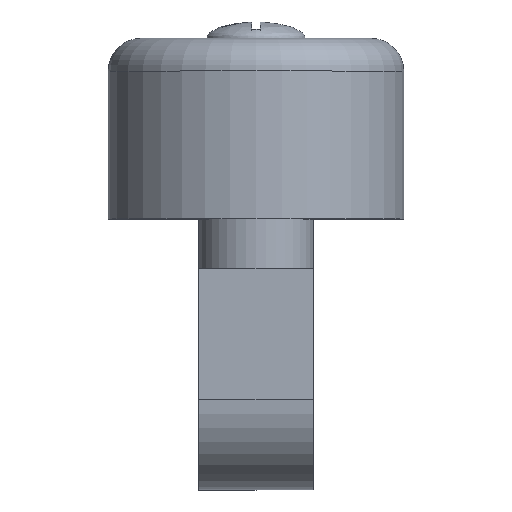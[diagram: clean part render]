
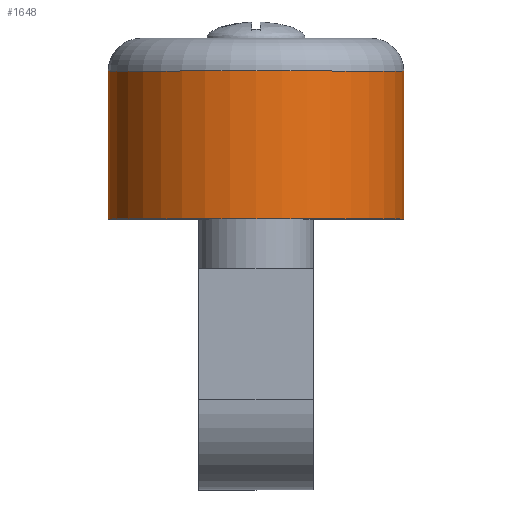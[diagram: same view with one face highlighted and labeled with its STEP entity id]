
A CAD part, top view. The second image highlights one B-rep face of the part: STEP entity #1648.
In plain terms, the highlighted cylindrical face has radius 18 mm (diameter 36 mm), a full revolution.
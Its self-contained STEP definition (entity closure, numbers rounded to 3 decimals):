
#310=LINE('',#5144,#416);
#416=VECTOR('',#2387,18.);
#480=CYLINDRICAL_SURFACE('',#1952,18.);
#644=FACE_OUTER_BOUND('',#741,.T.);
#741=EDGE_LOOP('',(#1419,#1420,#1421,#1422));
#849=CIRCLE('',#1949,18.);
#852=CIRCLE('',#1953,18.);
#949=VERTEX_POINT('',#5136);
#951=VERTEX_POINT('',#5142);
#1115=EDGE_CURVE('',#949,#949,#849,.T.);
#1118=EDGE_CURVE('',#951,#951,#852,.T.);
#1119=EDGE_CURVE('',#951,#949,#310,.T.);
#1419=ORIENTED_EDGE('',*,*,#1118,.F.);
#1420=ORIENTED_EDGE('',*,*,#1119,.T.);
#1421=ORIENTED_EDGE('',*,*,#1115,.T.);
#1422=ORIENTED_EDGE('',*,*,#1119,.F.);
#1648=ADVANCED_FACE('',(#644),#480,.T.);
#1949=AXIS2_PLACEMENT_3D('',#5137,#2377,#2378);
#1952=AXIS2_PLACEMENT_3D('',#5141,#2383,#2384);
#1953=AXIS2_PLACEMENT_3D('',#5143,#2385,#2386);
#2377=DIRECTION('center_axis',(0.,-1.,0.));
#2378=DIRECTION('ref_axis',(1.,0.,0.));
#2383=DIRECTION('center_axis',(0.,-1.,0.));
#2384=DIRECTION('ref_axis',(0.,0.,-1.));
#2385=DIRECTION('center_axis',(0.,-1.,0.));
#2386=DIRECTION('ref_axis',(1.,0.,0.));
#2387=DIRECTION('',(0.,1.,0.));
#5136=CARTESIAN_POINT('',(0.,7.,18.));
#5137=CARTESIAN_POINT('Origin',(0.,7.,0.));
#5141=CARTESIAN_POINT('Origin',(0.,-2.,0.));
#5142=CARTESIAN_POINT('',(0.,-11.,18.));
#5143=CARTESIAN_POINT('Origin',(0.,-11.,0.));
#5144=CARTESIAN_POINT('',(0.,-2.,18.));
